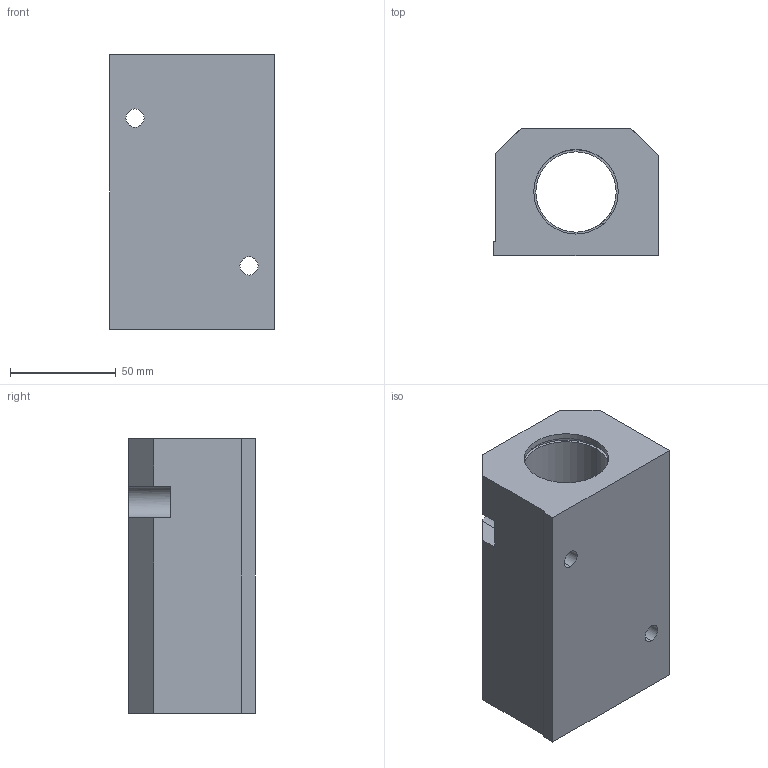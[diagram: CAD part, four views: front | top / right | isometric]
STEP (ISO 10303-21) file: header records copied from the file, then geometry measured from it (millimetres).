
FILE_DESCRIPTION (( 'STEP AP214' ), '1' );
FILE_NAME ('KTG85-25.step', '2020-03-04T13:25:50', ( '' ), ( '' ), 'SwSTEP 2.0', 'SolidWorks 2019', '' );
FILE_SCHEMA (( 'AUTOMOTIVE_DESIGN' ));
Length unit declared in the file: millimetre
Products named in the file (1): KTG85-25
Bounding box: 78 x 60 x 130 mm (x, y, z)
Volume: 404261 mm3; surface area: 61174.7 mm2
Topology: 1 solids, 1 shells, 50 faces, 122 edges, 80 vertices
Faces by surface type: cylinder 24, plane 24, cone 2
Entity records: 1648 total; most frequent: CARTESIAN_POINT 321, DIRECTION 264, ORIENTED_EDGE 244, EDGE_CURVE 122, AXIS2_PLACEMENT_3D 97, VERTEX_POINT 80, VECTOR 70, LINE 70
